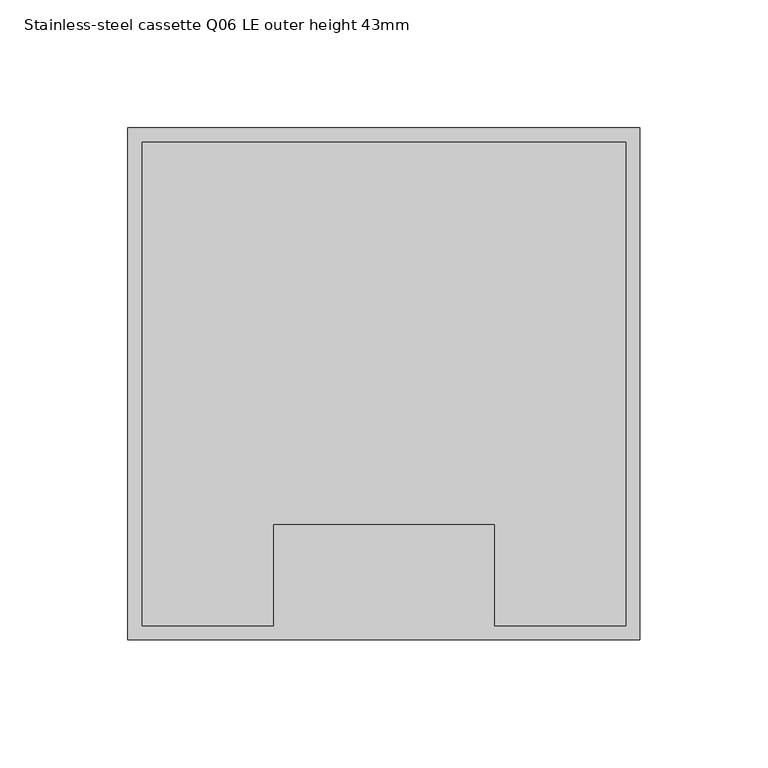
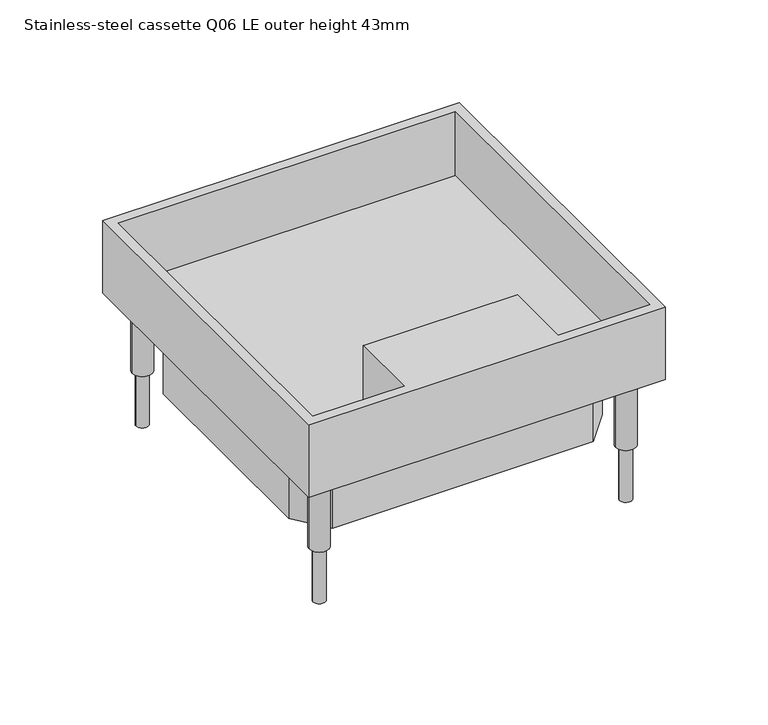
"""IFC4 building model written with IfcOpenShell, lengths in millimetres: proxy geometry, Electrical_Installation_Hager_VE-EE_EKQ-Height-adjustable-stainless-steel-cassette-with-cable-outlet-square-for-dry-cleaned-floors : Stainless-steel cassette Q06 LE outer height 43mm."""

from ifc_helpers import new_model, si_unit, point, frame, frame_2d, origin, place, context, project, spatial, polyline, circle_curve, trimmed, segment, composite_curve, outline, extrude, source, transform, mapped, element, save


def stainless_steel_cassette_q06_le_outer_height_43mm_17e8f02e(model_context):
    return source(origin(), model_context, "Body", "SweptSolid", [
        extrude(outline(composite_curve([segment(trimmed(circle_curve(frame_2d((-86.0, 86.0)), 3.5), [point((-89.5, 86.0))], [point((-82.5, 86.0))], False, "CARTESIAN"), True, "CONTINUOUS"), segment(trimmed(circle_curve(frame_2d((-86.0, 86.0)), 3.5), [point((-82.5, 86.0))], [point((-89.5, 86.0))], False, "CARTESIAN"), True, "CONTINUOUS")], self_intersect=False)), frame((0.0, 0.0, -115.0), z_axis=(0.0, 0.0, 1.0), x_axis=(1.0, 0.0, 0.0)), (0.0, 0.0, 1.0), 32.0011554),
        extrude(outline(composite_curve([segment(trimmed(circle_curve(frame_2d((86.0, 86.0)), 3.5), [point((82.5, 86.0))], [point((89.5, 86.0))], False, "CARTESIAN"), True, "CONTINUOUS"), segment(trimmed(circle_curve(frame_2d((86.0, 86.0)), 3.5), [point((89.5, 86.0))], [point((82.5, 86.0))], False, "CARTESIAN"), True, "CONTINUOUS")], self_intersect=False)), frame((0.0, 0.0, -115.0), z_axis=(0.0, 0.0, 1.0), x_axis=(1.0, 0.0, 0.0)), (0.0, 0.0, 1.0), 32.0011554),
        extrude(outline(composite_curve([segment(trimmed(circle_curve(frame_2d((86.0, -86.0)), 3.523354), [point((82.476646, -86.0))], [point((89.523354, -86.0))], False, "CARTESIAN"), True, "CONTINUOUS"), segment(trimmed(circle_curve(frame_2d((86.0, -86.0)), 3.523354), [point((89.523354, -86.0))], [point((82.476646, -86.0))], False, "CARTESIAN"), True, "CONTINUOUS")], self_intersect=False)), frame((0.0, 0.0, -115.0), z_axis=(0.0, 0.0, 1.0), x_axis=(1.0, 0.0, 0.0)), (0.0, 0.0, 1.0), 32.0011554),
        extrude(outline(composite_curve([segment(trimmed(circle_curve(frame_2d((-86.0, -86.0)), 3.5), [point((-89.5, -86.0))], [point((-82.5, -86.0))], False, "CARTESIAN"), True, "CONTINUOUS"), segment(trimmed(circle_curve(frame_2d((-86.0, -86.0)), 3.5), [point((-82.5, -86.0))], [point((-89.5, -86.0))], False, "CARTESIAN"), True, "CONTINUOUS")], self_intersect=False)), frame((0.0, 0.0, -115.0), z_axis=(0.0, 0.0, 1.0), x_axis=(1.0, 0.0, 0.0)), (0.0, 0.0, 1.0), 32.0011554),
        extrude(outline(polyline([(4.7, 77.5), (73.3639966, 77.5), (88.0, 60.5470649), (88.0, -59.6394213), (72.7984665, -77.5), (-73.867755, -77.5), (-88.0, -59.6801256), (-88.0, 62.043544), (-73.6272863, 77.5), (4.7, 77.5)]), holes=[polyline([(-85.0, 60.8642535), (-85.0, -58.634929), (-72.4180331, -74.5), (71.4123304, -74.5), (85.0, -58.5355815), (85.0, 59.4312235), (71.9906502, 74.5), (4.7, 74.5), (-72.3203352, 74.5), (-85.0, 60.8642535)])]), frame((0.0, 0.0, -82.0), z_axis=(0.0, 0.0, 1.0), x_axis=(1.0, 0.0, 0.0)), (0.0, 0.0, 1.0), 41.0),
        extrude(outline(polyline([(94.5, 94.5), (94.5, -94.5), (-94.5, -94.5), (-94.5, 94.5), (94.5, 94.5)])), frame((0.0, 0.0, -41.0), z_axis=(0.0, 0.0, 1.0), x_axis=(1.0, 0.0, 0.0)), (0.0, 0.0, 1.0), 5.0),
        extrude(outline(composite_curve([segment(trimmed(circle_curve(frame_2d((-86.0, 86.0)), 5.5), [point((-91.5, 86.0))], [point((-80.5, 86.0))], False, "CARTESIAN"), True, "CONTINUOUS"), segment(trimmed(circle_curve(frame_2d((-86.0, 86.0)), 5.5), [point((-80.5, 86.0))], [point((-91.5, 86.0))], False, "CARTESIAN"), True, "CONTINUOUS")], self_intersect=False)), frame((0.0, 0.0, -82.9988446), z_axis=(0.0, 0.0, 1.0), x_axis=(1.0, 0.0, 0.0)), (0.0, 0.0, 1.0), 41.9988446),
        extrude(outline(composite_curve([segment(trimmed(circle_curve(frame_2d((86.0, 86.0)), 5.5), [point((80.5, 86.0))], [point((91.5, 86.0))], False, "CARTESIAN"), True, "CONTINUOUS"), segment(trimmed(circle_curve(frame_2d((86.0, 86.0)), 5.5), [point((91.5, 86.0))], [point((80.5, 86.0))], False, "CARTESIAN"), True, "CONTINUOUS")], self_intersect=False)), frame((0.0, 0.0, -82.9988446), z_axis=(0.0, 0.0, 1.0), x_axis=(1.0, 0.0, 0.0)), (0.0, 0.0, 1.0), 41.9988446),
        extrude(outline(composite_curve([segment(trimmed(circle_curve(frame_2d((-86.0, -86.0)), 5.5), [point((-91.5, -86.0))], [point((-80.5, -86.0))], False, "CARTESIAN"), True, "CONTINUOUS"), segment(trimmed(circle_curve(frame_2d((-86.0, -86.0)), 5.5), [point((-80.5, -86.0))], [point((-91.5, -86.0))], False, "CARTESIAN"), True, "CONTINUOUS")], self_intersect=False)), frame((0.0, 0.0, -82.9988446), z_axis=(0.0, 0.0, 1.0), x_axis=(1.0, 0.0, 0.0)), (0.0, 0.0, 1.0), 41.9988446),
        extrude(outline(composite_curve([segment(trimmed(circle_curve(frame_2d((86.0, -86.0)), 5.5), [point((80.5, -86.0))], [point((91.5, -86.0))], False, "CARTESIAN"), True, "CONTINUOUS"), segment(trimmed(circle_curve(frame_2d((86.0, -86.0)), 5.5), [point((91.5, -86.0))], [point((80.5, -86.0))], False, "CARTESIAN"), True, "CONTINUOUS")], self_intersect=False)), frame((0.0, 0.0, -82.9988446), z_axis=(0.0, 0.0, 1.0), x_axis=(1.0, 0.0, 0.0)), (0.0, 0.0, 1.0), 41.9988446),
        extrude(outline(polyline([(100.0, 100.0), (100.0, -100.0), (-100.0, -100.0), (-100.0, 100.0), (100.0, 100.0)]), holes=[polyline([(94.5, 94.5), (-94.5, 94.5), (-94.5, -94.5), (-43.3360621, -94.5), (-43.3360621, -54.863938), (43.3360621, -54.863938), (43.3360621, -94.5), (94.5, -94.5), (94.5, 94.5)])]), frame((0.0, 0.0, -41.0), z_axis=(0.0, 0.0, 1.0), x_axis=(1.0, 0.0, 0.0)), (0.0, 0.0, 1.0), 43.0),
    ])


if __name__ == "__main__":
    model = new_model("IFC4")
    model_context = context("Model", 3, world=origin())
    ifc_project = project(units=[si_unit("LENGTHUNIT", "METRE", prefix="MILLI")], contexts=[model_context])
    site = spatial("IfcSite", under=ifc_project)
    building = spatial("IfcBuilding", under=site)
    placement = place(None, origin())
    stainless_steel_cassette_q06_le_outer_height_43mm_shape = stainless_steel_cassette_q06_le_outer_height_43mm_17e8f02e(model_context)
    element("IfcBuildingElementProxy", 1, Name="Electrical_Installation_Hager_VE-EE_EKQ-Height-adjustable-stainless-steel-cassette-with-cable-outlet-square-for-dry-cleaned-floors : Stainless-steel cassette Q06 LE outer height 43mm", ObjectType="Electrical_Installation_Hager_VE-EE_EKQ-Height-adjustable-stainless-steel-cassette-with-cable-outlet-square-for-dry-cleaned-floors : Stainless-steel cassette Q06 LE outer height 43mm", at=placement, inside=building, context=model_context, shape_type="MappedRepresentation", body=[
        mapped(stainless_steel_cassette_q06_le_outer_height_43mm_shape, transform((0.0, 0.0, 0.0), x_axis=(1.0, 0.0, 0.0), y_axis=(0.0, 1.0, 0.0), z_axis=(0.0, 0.0, 1.0))),
    ])
    save(model, "model.ifc")
